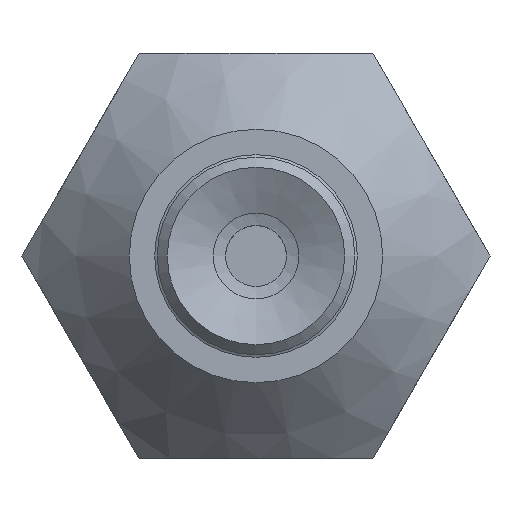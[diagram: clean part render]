
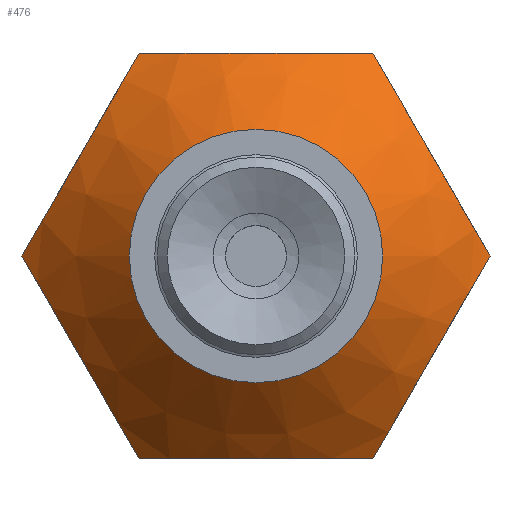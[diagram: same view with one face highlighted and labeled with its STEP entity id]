
A CAD part, front view. The second image highlights one B-rep face of the part: STEP entity #476.
In plain terms, the highlighted conical face has half-angle 45 degrees and reference radius 2.5 mm.
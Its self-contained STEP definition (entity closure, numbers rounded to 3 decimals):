
#476=ADVANCED_FACE('',(#690,#691),#692,.T.);
#690=FACE_BOUND('',#948,.T.);
#691=FACE_OUTER_BOUND('',#949,.T.);
#692=CONICAL_SURFACE('',#950,2.5,0.785);
#948=EDGE_LOOP('',(#1575));
#949=EDGE_LOOP('',(#1576,#1577,#1578,#1579,#1580,#1581));
#950=AXIS2_PLACEMENT_3D('',#1582,#1583,#1584);
#1575=ORIENTED_EDGE('',*,*,#1826,.F.);
#1576=ORIENTED_EDGE('',*,*,#1810,.F.);
#1577=ORIENTED_EDGE('',*,*,#1868,.F.);
#1578=ORIENTED_EDGE('',*,*,#1869,.F.);
#1579=ORIENTED_EDGE('',*,*,#1854,.F.);
#1580=ORIENTED_EDGE('',*,*,#1850,.F.);
#1581=ORIENTED_EDGE('',*,*,#1803,.F.);
#1582=CARTESIAN_POINT('',(0.0,0.,0.0));
#1583=DIRECTION('',(-0.0,1.0,-0.0));
#1584=DIRECTION('',(0.0,0.0,1.0));
#1803=EDGE_CURVE('',#2045,#2046,#2047,.T.);
#1810=EDGE_CURVE('',#2058,#2045,#2059,.T.);
#1826=EDGE_CURVE('',#2086,#2086,#2087,.T.);
#1850=EDGE_CURVE('',#2046,#2128,#2129,.T.);
#1854=EDGE_CURVE('',#2128,#2135,#2136,.T.);
#1868=EDGE_CURVE('',#2153,#2058,#2154,.T.);
#1869=EDGE_CURVE('',#2135,#2153,#2155,.T.);
#2045=VERTEX_POINT('',#2649);
#2046=VERTEX_POINT('',#2650);
#2047=B_SPLINE_CURVE_WITH_KNOTS('',2,(#2651,#2652,#2653,#2654,#2655),.UNSPECIFIED.,.F.,.F.,(3,2,3),(0.0,0.5,1.0),.UNSPECIFIED.);
#2058=VERTEX_POINT('',#2674);
#2059=B_SPLINE_CURVE_WITH_KNOTS('',2,(#2675,#2676,#2677,#2678,#2679),.UNSPECIFIED.,.F.,.F.,(3,2,3),(0.0,0.5,1.0),.UNSPECIFIED.);
#2086=VERTEX_POINT('',#2718);
#2087=CIRCLE('',#2719,2.5);
#2128=VERTEX_POINT('',#2777);
#2129=B_SPLINE_CURVE_WITH_KNOTS('',2,(#2778,#2779,#2780,#2781,#2782),.UNSPECIFIED.,.F.,.F.,(3,2,3),(0.0,0.5,1.0),.UNSPECIFIED.);
#2135=VERTEX_POINT('',#2793);
#2136=B_SPLINE_CURVE_WITH_KNOTS('',2,(#2794,#2795,#2796,#2797,#2798),.UNSPECIFIED.,.F.,.F.,(3,2,3),(0.0,0.5,1.0),.UNSPECIFIED.);
#2153=VERTEX_POINT('',#2821);
#2154=B_SPLINE_CURVE_WITH_KNOTS('',2,(#2822,#2823,#2824,#2825,#2826),.UNSPECIFIED.,.F.,.F.,(3,2,3),(0.0,0.5,1.0),.UNSPECIFIED.);
#2155=B_SPLINE_CURVE_WITH_KNOTS('',2,(#2827,#2828,#2829,#2830,#2831),.UNSPECIFIED.,.F.,.F.,(3,2,3),(0.0,0.5,1.0),.UNSPECIFIED.);
#2649=CARTESIAN_POINT('',(2.309,2.119,-4.0));
#2650=CARTESIAN_POINT('',(-2.309,2.119,-4.0));
#2651=CARTESIAN_POINT('',(2.309,2.119,-4.0));
#2652=CARTESIAN_POINT('',(1.072,1.5,-4.0));
#2653=CARTESIAN_POINT('',(0.001,1.5,-4.0));
#2654=CARTESIAN_POINT('',(-1.071,1.5,-4.0));
#2655=CARTESIAN_POINT('',(-2.309,2.119,-4.0));
#2674=CARTESIAN_POINT('',(4.619,2.119,0.));
#2675=CARTESIAN_POINT('',(4.619,2.119,0.));
#2676=CARTESIAN_POINT('',(4.002,1.502,-1.068));
#2677=CARTESIAN_POINT('',(3.468,1.5,-1.993));
#2678=CARTESIAN_POINT('',(2.93,1.498,-2.925));
#2679=CARTESIAN_POINT('',(2.309,2.119,-4.));
#2718=CARTESIAN_POINT('',(0.0,0.,-2.5));
#2719=AXIS2_PLACEMENT_3D('',#3024,#3025,#3026);
#2777=CARTESIAN_POINT('',(-4.619,2.119,0.));
#2778=CARTESIAN_POINT('',(-2.309,2.119,-4.0));
#2779=CARTESIAN_POINT('',(-2.926,1.502,-2.932));
#2780=CARTESIAN_POINT('',(-3.46,1.5,-2.007));
#2781=CARTESIAN_POINT('',(-3.998,1.498,-1.075));
#2782=CARTESIAN_POINT('',(-4.619,2.119,0.));
#2793=CARTESIAN_POINT('',(-2.309,2.119,4.0));
#2794=CARTESIAN_POINT('',(-4.619,2.119,0.));
#2795=CARTESIAN_POINT('',(-4.002,1.502,1.068));
#2796=CARTESIAN_POINT('',(-3.468,1.5,1.993));
#2797=CARTESIAN_POINT('',(-2.93,1.498,2.925));
#2798=CARTESIAN_POINT('',(-2.309,2.119,4.));
#2821=CARTESIAN_POINT('',(2.309,2.119,4.0));
#2822=CARTESIAN_POINT('',(2.309,2.119,4.0));
#2823=CARTESIAN_POINT('',(2.926,1.502,2.932));
#2824=CARTESIAN_POINT('',(3.46,1.5,2.007));
#2825=CARTESIAN_POINT('',(3.998,1.498,1.075));
#2826=CARTESIAN_POINT('',(4.619,2.119,0.));
#2827=CARTESIAN_POINT('',(-2.309,2.119,4.0));
#2828=CARTESIAN_POINT('',(-1.072,1.5,4.0));
#2829=CARTESIAN_POINT('',(-0.001,1.5,4.0));
#2830=CARTESIAN_POINT('',(1.071,1.5,4.0));
#2831=CARTESIAN_POINT('',(2.309,2.119,4.0));
#3024=CARTESIAN_POINT('',(0.0,0.,0.0));
#3025=DIRECTION('',(0.0,-1.0,0.0));
#3026=DIRECTION('',(0.0,0.0,-1.0));
